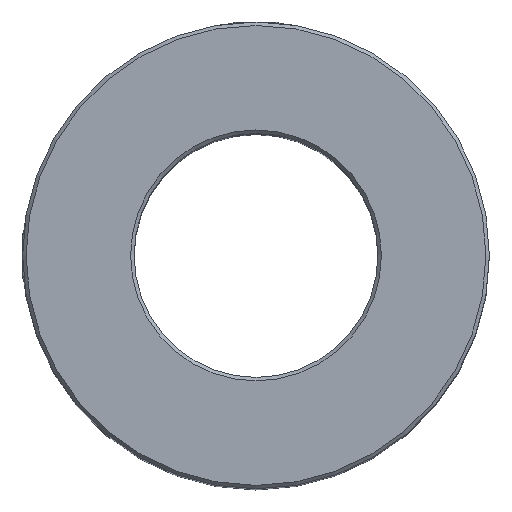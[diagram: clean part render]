
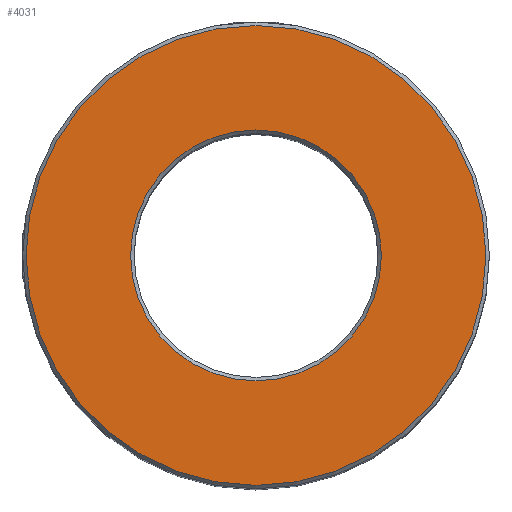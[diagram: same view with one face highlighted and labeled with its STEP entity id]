
A CAD part, top view. The second image highlights one B-rep face of the part: STEP entity #4031.
In plain terms, the highlighted planar face has unit normal (0, 0, 1).
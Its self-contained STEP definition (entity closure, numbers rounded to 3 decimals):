
#68 = EDGE_CURVE ( 'NONE', #1011, #1011, #6708, .T. ) ;
#289 = CIRCLE ( 'NONE', #2238, 33. ) ;
#324 = CARTESIAN_POINT ( 'NONE',  ( 0., 0., 47.5 ) ) ;
#462 = EDGE_CURVE ( 'NONE', #1100, #1100, #289, .T. ) ;
#510 = DIRECTION ( 'NONE',  ( 1., 0., 0. ) ) ;
#1011 = VERTEX_POINT ( 'NONE', #5034 ) ;
#1100 = VERTEX_POINT ( 'NONE', #3058 ) ;
#1131 = EDGE_LOOP ( 'NONE', ( #7896 ) ) ;
#1372 = CARTESIAN_POINT ( 'NONE',  ( 0., 0., 47.5 ) ) ;
#2238 = AXIS2_PLACEMENT_3D ( 'NONE', #324, #6332, #7598 ) ;
#3058 = CARTESIAN_POINT ( 'NONE',  ( 33., 0., 47.5 ) ) ;
#3262 = PLANE ( 'NONE',  #7240 ) ;
#3284 = EDGE_LOOP ( 'NONE', ( #4255 ) ) ;
#3907 = FACE_BOUND ( 'NONE', #1131, .T. ) ;
#4031 = ADVANCED_FACE ( 'NONE', ( #3907, #5264 ), #3262, .T. ) ;
#4255 = ORIENTED_EDGE ( 'NONE', *, *, #462, .T. ) ;
#5034 = CARTESIAN_POINT ( 'NONE',  ( 18., 0., 47.5 ) ) ;
#5264 = FACE_OUTER_BOUND ( 'NONE', #3284, .T. ) ;
#5475 = DIRECTION ( 'NONE',  ( 0., 0., 1. ) ) ;
#5993 = CARTESIAN_POINT ( 'NONE',  ( 0., 0., 47.5 ) ) ;
#6332 = DIRECTION ( 'NONE',  ( 0., 0., 1. ) ) ;
#6708 = CIRCLE ( 'NONE', #7129, 18. ) ;
#7129 = AXIS2_PLACEMENT_3D ( 'NONE', #1372, #7779, #510 ) ;
#7240 = AXIS2_PLACEMENT_3D ( 'NONE', #5993, #5475, #7376 ) ;
#7376 = DIRECTION ( 'NONE',  ( 1., 0., 0. ) ) ;
#7598 = DIRECTION ( 'NONE',  ( 1., 0., 0. ) ) ;
#7779 = DIRECTION ( 'NONE',  ( 0., 0., -1. ) ) ;
#7896 = ORIENTED_EDGE ( 'NONE', *, *, #68, .T. ) ;
